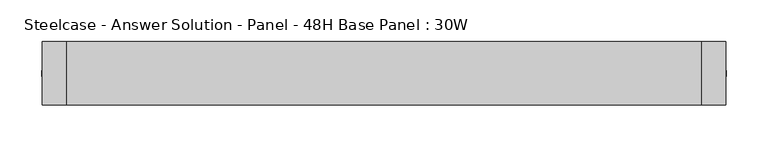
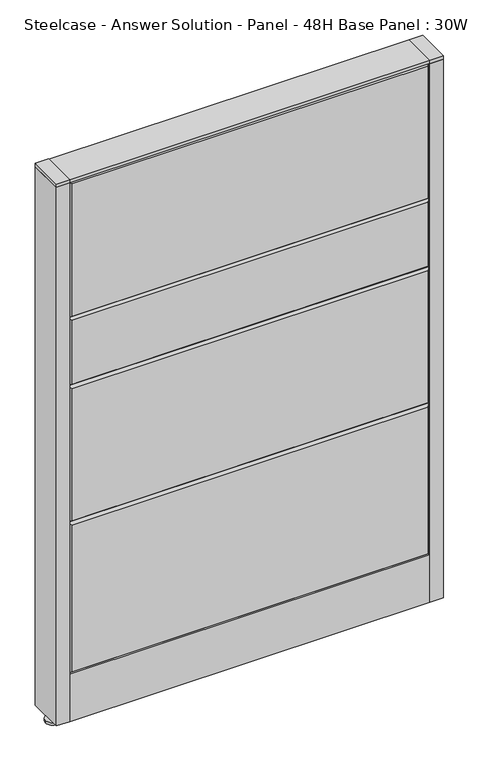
"""IFC4 building model written with IfcOpenShell, lengths in millimetres: furniture geometry, Steelcase - Answer Solution - Panel - 48H Base Panel : 30W."""

from ifc_helpers import new_model, si_unit, point, frame, frame_2d, origin, place, context, project, spatial, polyline, circle_curve, trimmed, segment, composite_curve, outline, extrude, faceted_brep, source, transform, mapped, element, save


def steelcase_answer_solution_panel_48h_base_panel_30w_ab327a7b(model_context):
    return source(origin(), model_context, "Body", "SolidModel", [
        extrude(outline(composite_curve([segment(trimmed(circle_curve(frame_2d((395.224, 0.0320214)), 5.08), [point((400.304, 0.0320214))], [point((390.144, 0.0320214))], False, "CARTESIAN"), True, "CONTINUOUS"), segment(trimmed(circle_curve(frame_2d((395.224, 0.0320214)), 5.08), [point((390.144, 0.0320214))], [point((400.304, 0.0320214))], False, "CARTESIAN"), True, "CONTINUOUS")], self_intersect=False)), frame((0.0, 0.0, 5.0799671), z_axis=(0.0, 0.0, 1.0), x_axis=(1.0, 0.0, 0.0)), (0.0, 0.0, 1.0), 10.414),
        extrude(outline(composite_curve([segment(trimmed(circle_curve(frame_2d((395.224, 0.0320214)), 15.24), [point((410.464, 0.0320214))], [point((379.984, 0.0320214))], False, "CARTESIAN"), True, "CONTINUOUS"), segment(trimmed(circle_curve(frame_2d((395.224, 0.0320214)), 15.24), [point((379.984, 0.0320214))], [point((410.464, 0.0320214))], False, "CARTESIAN"), True, "CONTINUOUS")], self_intersect=False)), frame((0.0, 0.0, -3.29e-05), z_axis=(0.0, 0.0, 1.0), x_axis=(1.0, 0.0, 0.0)), (0.0, 0.0, 1.0), 5.08),
        extrude(outline(polyline([(409.575, 38.1320408), (409.575, -38.0679592), (381.0, -38.0679592), (381.0, 38.1320408), (409.575, 38.1320408)])), frame((0.0, 0.0, 1218.2348), z_axis=(0.0, 0.0, 1.0), x_axis=(1.0, 0.0, 0.0)), (0.0, 0.0, 1.0), 7.3151671),
        extrude(outline(polyline([(409.575, 38.1320408), (409.575, -38.0679592), (381.0, -38.0679592), (381.0, 38.1320408), (409.575, 38.1320408)])), frame((0.0, 0.0, 15.4939671), z_axis=(0.0, 0.0, 1.0), x_axis=(1.0, 0.0, 0.0)), (0.0, 0.0, 1.0), 1202.7408329),
        extrude(outline(composite_curve([segment(trimmed(circle_curve(frame_2d((-395.224, 0.0320214)), 5.08), [point((-400.304, 0.0320214))], [point((-390.144, 0.0320214))], False, "CARTESIAN"), True, "CONTINUOUS"), segment(trimmed(circle_curve(frame_2d((-395.224, 0.0320214)), 5.08), [point((-390.144, 0.0320214))], [point((-400.304, 0.0320214))], False, "CARTESIAN"), True, "CONTINUOUS")], self_intersect=False)), frame((0.0, 0.0, 5.0799671), z_axis=(0.0, 0.0, 1.0), x_axis=(1.0, 0.0, 0.0)), (0.0, 0.0, 1.0), 10.414),
        extrude(outline(composite_curve([segment(trimmed(circle_curve(frame_2d((-395.224, 0.0320214)), 15.24), [point((-410.464, 0.0320214))], [point((-379.984, 0.0320214))], False, "CARTESIAN"), True, "CONTINUOUS"), segment(trimmed(circle_curve(frame_2d((-395.224, 0.0320214)), 15.24), [point((-379.984, 0.0320214))], [point((-410.464, 0.0320214))], False, "CARTESIAN"), True, "CONTINUOUS")], self_intersect=False)), frame((0.0, 0.0, -3.29e-05), z_axis=(0.0, 0.0, 1.0), x_axis=(1.0, 0.0, 0.0)), (0.0, 0.0, 1.0), 5.08),
        extrude(outline(polyline([(-409.575, 38.1320408), (-381.0, 38.1320408), (-381.0, -38.0679592), (-409.575, -38.0679592), (-409.575, 38.1320408)])), frame((0.0, 0.0, 1218.2348), z_axis=(0.0, 0.0, 1.0), x_axis=(1.0, 0.0, 0.0)), (0.0, 0.0, 1.0), 7.3151671),
        extrude(outline(polyline([(-409.575, 38.1320408), (-381.0, 38.1320408), (-381.0, -38.0679592), (-409.575, -38.0679592), (-409.575, 38.1320408)])), frame((0.0, 0.0, 15.4939671), z_axis=(0.0, 0.0, 1.0), x_axis=(1.0, 0.0, 0.0)), (0.0, 0.0, 1.0), 1202.7408329),
        faceted_brep([(-376.174, 38.1635011, 1214.374), (376.174, 38.1635011, 1214.374), (376.174, 38.1635011, 919.226), (-376.174, 38.1635011, 919.226), (-381.0, 33.3375011, 1219.2), (-381.0, 33.3375011, 914.4), (381.0, 33.3375011, 914.4), (381.0, 33.3375011, 1219.2)], [[[0, 1, 2, 3]], [[4, 5, 6, 7]], [[4, 7, 1, 0]], [[7, 6, 2, 1]], [[6, 5, 3, 2]], [[5, 4, 0, 3]]]),
        faceted_brep([(-376.174, 38.1635011, 909.574), (376.174, 38.1635011, 909.574), (376.174, 38.1635011, 766.826), (-376.174, 38.1635011, 766.826), (-381.0, 33.3375011, 914.4), (-381.0, 33.3375011, 762.0), (381.0, 33.3375011, 762.0), (381.0, 33.3375011, 914.4)], [[[0, 1, 2, 3]], [[4, 5, 6, 7]], [[4, 7, 1, 0]], [[7, 6, 2, 1]], [[6, 5, 3, 2]], [[5, 4, 0, 3]]]),
        faceted_brep([(-376.174, 38.1635011, 757.174), (376.174, 38.1635011, 757.174), (376.174, 38.1635011, 462.026), (-376.174, 38.1635011, 462.026), (-381.0, 33.3375011, 762.0), (-381.0, 33.3375011, 457.2), (381.0, 33.3375011, 457.2), (381.0, 33.3375011, 762.0)], [[[0, 1, 2, 3]], [[4, 5, 6, 7]], [[4, 7, 1, 0]], [[7, 6, 2, 1]], [[6, 5, 3, 2]], [[5, 4, 0, 3]]]),
        faceted_brep([(-376.174, 38.1635011, 452.374), (376.174, 38.1635011, 452.374), (376.174, 38.1635011, 125.476), (-376.174, 38.1635011, 125.476), (-381.0, 33.3375011, 457.2), (-381.0, 33.3375011, 120.65), (381.0, 33.3375011, 120.65), (381.0, 33.3375011, 457.2)], [[[0, 1, 2, 3]], [[4, 5, 6, 7]], [[4, 7, 1, 0]], [[7, 6, 2, 1]], [[6, 5, 3, 2]], [[5, 4, 0, 3]]]),
        faceted_brep([(376.174, -38.1635011, 1214.374), (-376.174, -38.1635011, 1214.374), (-376.174, -38.1635011, 919.226), (376.174, -38.1635011, 919.226), (381.0, -33.3375011, 1219.2), (381.0, -33.3375011, 914.4), (-381.0, -33.3375011, 914.4), (-381.0, -33.3375011, 1219.2)], [[[0, 1, 2, 3]], [[4, 5, 6, 7]], [[4, 7, 1, 0]], [[7, 6, 2, 1]], [[6, 5, 3, 2]], [[5, 4, 0, 3]]]),
        faceted_brep([(376.174, -38.1635011, 909.574), (-376.174, -38.1635011, 909.574), (-376.174, -38.1635011, 766.826), (376.174, -38.1635011, 766.826), (381.0, -33.3375011, 914.4), (381.0, -33.3375011, 762.0), (-381.0, -33.3375011, 762.0), (-381.0, -33.3375011, 914.4)], [[[0, 1, 2, 3]], [[4, 5, 6, 7]], [[4, 7, 1, 0]], [[7, 6, 2, 1]], [[6, 5, 3, 2]], [[5, 4, 0, 3]]]),
        faceted_brep([(376.174, -38.1635011, 757.174), (-376.174, -38.1635011, 757.174), (-376.174, -38.1635011, 462.026), (376.174, -38.1635011, 462.026), (381.0, -33.3375011, 762.0), (381.0, -33.3375011, 457.2), (-381.0, -33.3375011, 457.2), (-381.0, -33.3375011, 762.0)], [[[0, 1, 2, 3]], [[4, 5, 6, 7]], [[4, 7, 1, 0]], [[7, 6, 2, 1]], [[6, 5, 3, 2]], [[5, 4, 0, 3]]]),
        faceted_brep([(376.174, -38.1635011, 452.374), (-376.174, -38.1635011, 452.374), (-376.174, -38.1635011, 125.476), (376.174, -38.1635011, 125.476), (381.0, -33.3375011, 457.2), (381.0, -33.3375011, 120.65), (-381.0, -33.3375011, 120.65), (-381.0, -33.3375011, 457.2)], [[[0, 1, 2, 3]], [[4, 5, 6, 7]], [[4, 7, 1, 0]], [[7, 6, 2, 1]], [[6, 5, 3, 2]], [[5, 4, 0, 3]]]),
        extrude(outline(polyline([(381.0, 38.1000194), (381.0, -38.1000194), (-381.0, -38.1000194), (-381.0, 38.1000194), (381.0, 38.1000194)])), frame((0.0, 0.0, 1219.2), z_axis=(0.0, 0.0, 1.0), x_axis=(1.0, 0.0, 0.0)), (0.0, 0.0, 1.0), 6.35),
        extrude(outline(polyline([(25.4000011, 119.8575157), (25.4000011, 120.65), (38.1000194, 120.65), (38.1000194, 15.494), (37.3075215, 15.494), (37.3075215, 119.8575157), (25.4000011, 119.8575157)])), frame((-381.0, 0.0, 0.0), z_axis=(1.0, 0.0, 0.0), x_axis=(0.0, 1.0, 0.0)), (0.0, 0.0, 1.0), 762.0),
        extrude(outline(polyline([(-25.4000011, 119.8575157), (-37.3075215, 119.8575157), (-37.3075215, 15.494), (-38.1000194, 15.494), (-38.1000194, 120.65), (-25.4000011, 120.65), (-25.4000011, 119.8575157)])), frame((-381.0, 0.0, 0.0), z_axis=(1.0, 0.0, 0.0), x_axis=(0.0, 1.0, 0.0)), (0.0, 0.0, 1.0), 762.0),
    ])


if __name__ == "__main__":
    model = new_model("IFC4")
    model_context = context("Model", 3, world=origin())
    ifc_project = project(units=[si_unit("LENGTHUNIT", "METRE", prefix="MILLI")], contexts=[model_context])
    site = spatial("IfcSite", under=ifc_project)
    building = spatial("IfcBuilding", under=site)
    placement = place(None, origin())
    steelcase_answer_solution_panel_48h_base_panel_30w_shape = steelcase_answer_solution_panel_48h_base_panel_30w_ab327a7b(model_context)
    element("IfcFurniture", 1, ObjectType="Steelcase - Answer Solution - Panel - 48H Base Panel : 30W", at=placement, inside=building, context=model_context, shape_type="MappedRepresentation", body=[
        mapped(steelcase_answer_solution_panel_48h_base_panel_30w_shape, transform((0.0, 0.0, 0.0), x_axis=(1.0, 0.0, 0.0), y_axis=(0.0, 1.0, 0.0), z_axis=(0.0, 0.0, 1.0))),
    ])
    save(model, "model.ifc")
